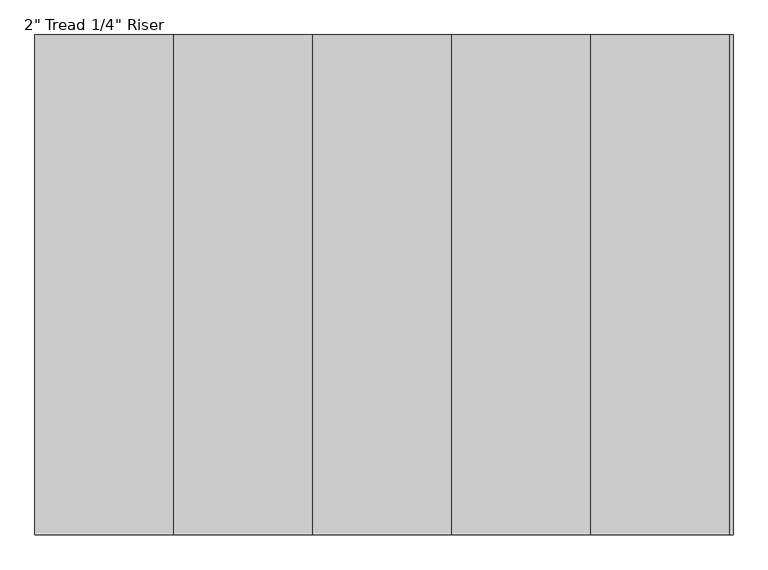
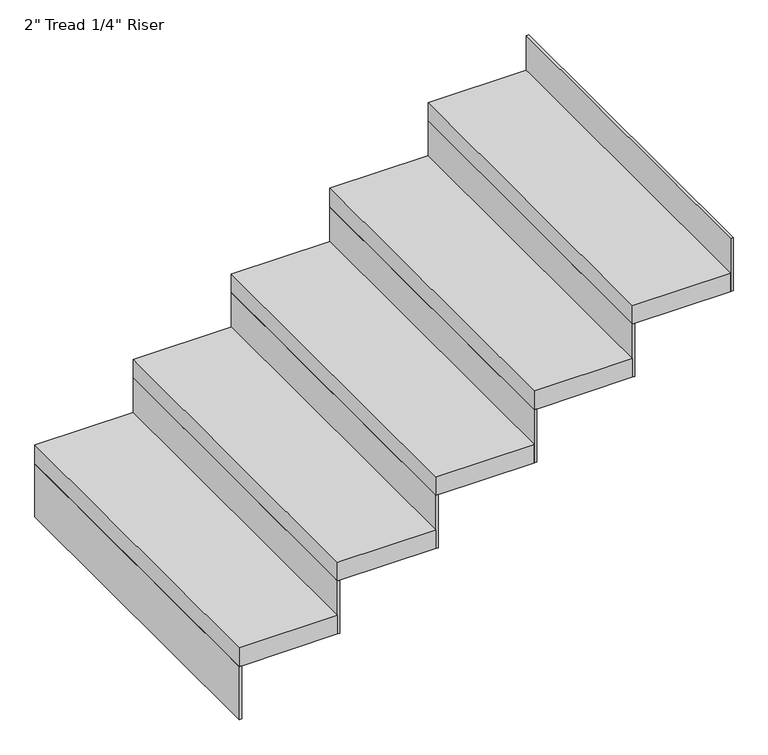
"""IFC4 building model written with IfcOpenShell, lengths in millimetres: stair flight geometry."""

from ifc_helpers import new_model, si_unit, frame, origin, place, context, project, spatial, polyline, outline, extrude, source, transform, mapped, element, save


def stair_flight_94b45384(model_context):
    return source(origin(), model_context, "Body", "SweptSolid", [
        extrude(outline(polyline([(89079.3548368, -18868.6990002), (89073.0048368, -18868.6990002), (89073.0048368, -17954.2990002), (89079.3548368, -17954.2990002), (89079.3548368, -18868.6990002)])), frame((0.0, 0.0, 2126.3428571), z_axis=(0.0, 0.0, 1.0), x_axis=(1.0, 0.0, 0.0)), (0.0, 0.0, 1.0), 145.1428571),
        extrude(outline(polyline([(89327.0048368, -17954.2990002), (89327.0048368, -18868.6990002), (89073.0048368, -18868.6990002), (89073.0048368, -17954.2990002), (89327.0048368, -17954.2990002)])), frame((0.0, 0.0, 2271.4857143), z_axis=(0.0, 0.0, 1.0), x_axis=(1.0, 0.0, 0.0)), (0.0, 0.0, 1.0), 50.8),
        extrude(outline(polyline([(89333.3548368, -18868.6990002), (89327.0048368, -18868.6990002), (89327.0048368, -17954.2990002), (89333.3548368, -17954.2990002), (89333.3548368, -18868.6990002)])), frame((0.0, 0.0, 2271.4857143), z_axis=(0.0, 0.0, 1.0), x_axis=(1.0, 0.0, 0.0)), (0.0, 0.0, 1.0), 145.1428571),
        extrude(outline(polyline([(89581.0048368, -17954.2990002), (89581.0048368, -18868.6990002), (89327.0048368, -18868.6990002), (89327.0048368, -17954.2990002), (89581.0048368, -17954.2990002)])), frame((0.0, 0.0, 2416.6285714), z_axis=(0.0, 0.0, 1.0), x_axis=(1.0, 0.0, 0.0)), (0.0, 0.0, 1.0), 50.8),
        extrude(outline(polyline([(89587.3548368, -18868.6990002), (89581.0048368, -18868.6990002), (89581.0048368, -17954.2990002), (89587.3548368, -17954.2990002), (89587.3548368, -18868.6990002)])), frame((0.0, 0.0, 2416.6285714), z_axis=(0.0, 0.0, 1.0), x_axis=(1.0, 0.0, 0.0)), (0.0, 0.0, 1.0), 145.1428571),
        extrude(outline(polyline([(89835.0048368, -17954.2990002), (89835.0048368, -18868.6990002), (89581.0048368, -18868.6990002), (89581.0048368, -17954.2990002), (89835.0048368, -17954.2990002)])), frame((0.0, 0.0, 2561.7714286), z_axis=(0.0, 0.0, 1.0), x_axis=(1.0, 0.0, 0.0)), (0.0, 0.0, 1.0), 50.8),
        extrude(outline(polyline([(89841.3548368, -18868.6990002), (89835.0048368, -18868.6990002), (89835.0048368, -17954.2990002), (89841.3548368, -17954.2990002), (89841.3548368, -18868.6990002)])), frame((0.0, 0.0, 2561.7714286), z_axis=(0.0, 0.0, 1.0), x_axis=(1.0, 0.0, 0.0)), (0.0, 0.0, 1.0), 145.1428571),
        extrude(outline(polyline([(90089.0048368, -17954.2990002), (90089.0048368, -18868.6990002), (89835.0048368, -18868.6990002), (89835.0048368, -17954.2990002), (90089.0048368, -17954.2990002)])), frame((0.0, 0.0, 2706.9142857), z_axis=(0.0, 0.0, 1.0), x_axis=(1.0, 0.0, 0.0)), (0.0, 0.0, 1.0), 50.8),
        extrude(outline(polyline([(90095.3548368, -18868.6990002), (90089.0048368, -18868.6990002), (90089.0048368, -17954.2990002), (90095.3548368, -17954.2990002), (90095.3548368, -18868.6990002)])), frame((0.0, 0.0, 2706.9142857), z_axis=(0.0, 0.0, 1.0), x_axis=(1.0, 0.0, 0.0)), (0.0, 0.0, 1.0), 145.1428571),
        extrude(outline(polyline([(90349.3548368, -18868.6990002), (90343.0048368, -18868.6990002), (90343.0048368, -17954.2990002), (90349.3548368, -17954.2990002), (90349.3548368, -18868.6990002)])), frame((0.0, 0.0, 2852.0571429), z_axis=(0.0, 0.0, 1.0), x_axis=(1.0, 0.0, 0.0)), (0.0, 0.0, 1.0), 145.1428571),
        extrude(outline(polyline([(90343.0048368, -17954.2990002), (90343.0048368, -18868.6990002), (90089.0048368, -18868.6990002), (90089.0048368, -17954.2990002), (90343.0048368, -17954.2990002)])), frame((0.0, 0.0, 2852.0571429), z_axis=(0.0, 0.0, 1.0), x_axis=(1.0, 0.0, 0.0)), (0.0, 0.0, 1.0), 50.8),
    ])


if __name__ == "__main__":
    model = new_model("IFC4")
    model_context = context("Model", 3, world=origin())
    ifc_project = project(units=[si_unit("LENGTHUNIT", "METRE", prefix="MILLI")], contexts=[model_context])
    site = spatial("IfcSite", under=ifc_project)
    building = spatial("IfcBuilding", under=site)
    placement = place(None, origin())
    stair_flight_shape = stair_flight_94b45384(model_context)
    element("IfcStairFlight", 1, ObjectType="2\" Tread 1/4\" Riser", at=placement, inside=building, context=model_context, shape_type="MappedRepresentation", body=[
        mapped(stair_flight_shape, transform((0.0, 0.0, 0.0), x_axis=(1.0, 0.0, 0.0), y_axis=(0.0, 1.0, 0.0), z_axis=(0.0, 0.0, 1.0))),
    ])
    save(model, "model.ifc")
